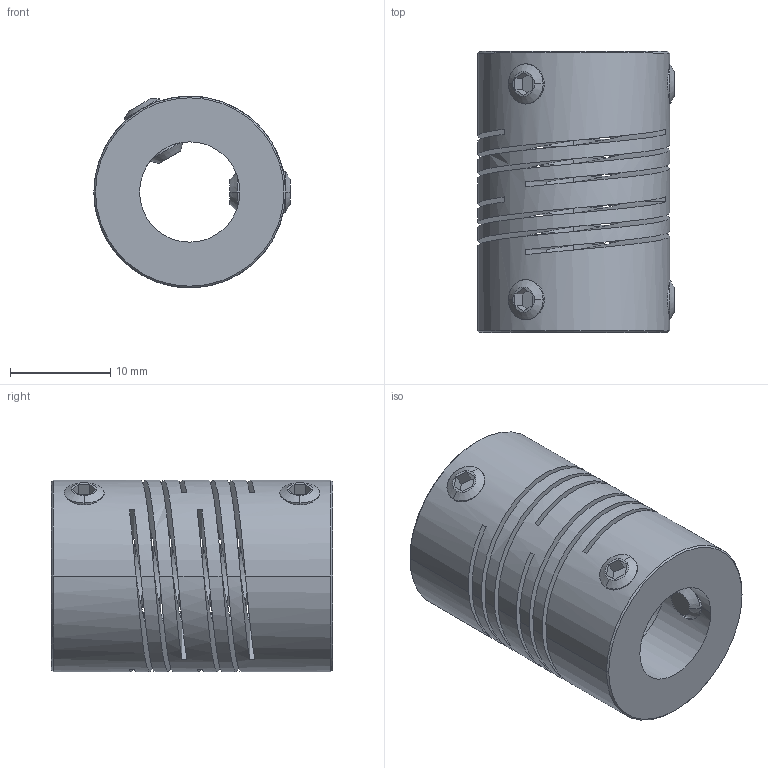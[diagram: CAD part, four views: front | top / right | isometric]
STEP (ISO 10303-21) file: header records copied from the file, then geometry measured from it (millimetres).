
FILE_DESCRIPTION((''),'2;1');
FILE_NAME('722_19_ASM','2006-12-05T',('Gary Melling'),(''),'PRO/ENGINEER BY PARAMETRIC TECHNOLOGY CORPORATION, 2006240','PRO/ENGINEER BY PARAMETRIC TECHNOLOGY CORPORATION, 2006240','');
FILE_SCHEMA(('CONFIG_CONTROL_DESIGN'));
Length unit declared in the file: millimetre
Products named in the file (3): 722_19; GS_4; 722_19_ASM
Assembly tree (5 placements, depth 2):
  722_19_ASM
    722_19
    GS_4  x4
Bounding box: 19.55 x 28 x 19.1 mm (x, y, z)
Volume: 5056.3 mm3; surface area: 5540.1 mm2
Topology: 5 solids, 5 shells, 120 faces, 328 edges, 208 vertices
Faces by surface type: plane 52, cylinder 36, cone 20, bspline 12
Entity records: 4670 total; most frequent: CARTESIAN_POINT 2647, ORIENTED_EDGE 464, DIRECTION 318, EDGE_CURVE 232, VERTEX_POINT 148, VECTOR 120, LINE 120, AXIS2_PLACEMENT_3D 99
